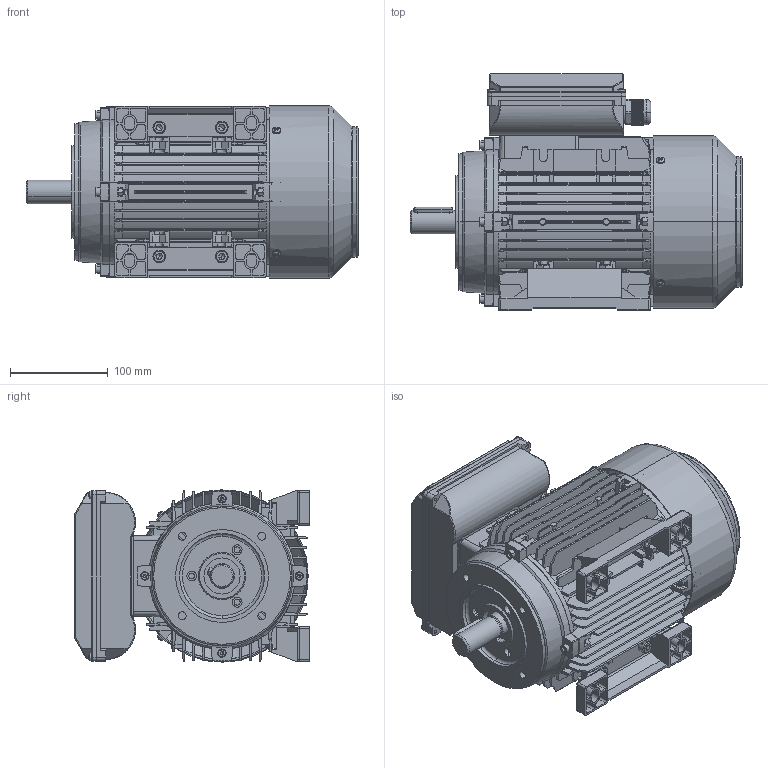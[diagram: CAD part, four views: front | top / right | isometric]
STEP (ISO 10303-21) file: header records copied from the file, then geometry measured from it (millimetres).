
FILE_DESCRIPTION (( 'STEP AP203' ), '1' );
FILE_NAME ('ML2 90L B34(臏諉盄碟).STEP', '2024-01-22T08:34:21', ( '' ), ( '' ), 'SwSTEP 2.0', 'SolidWorks 2016', '' );
FILE_SCHEMA (( 'CONFIG_CONTROL_DESIGN' ));
Length unit declared in the file: millimetre
Products named in the file (19): cross recessed thread forming screws gb_GB_CROSS_SCREWS_TYPE138 M4X8X6.6-N; ML2 90L B34(臏諉盄碟); T90L菁褐; TA90瑞欶; 80-100堤盄蹟杶; ML80-90铝接线盒组合II（加长）; 90瑞珔; TA90B14楊擘1; hexagon nuts grade c gb_GB_FASTENER_NUT_SNC1 M8-N; cross recessed thread forming screws gb_GB_CROSS_SCREWS_TYPE138 M4X12-N; T90L儂褲; ML80-ML90諉盄碟釱(樓酗)(臏II); hexagon nuts grade c gb_GB_FASTENER_NUT_SNC1 M5-N; plain parallel keys_GB_CONNECTING_PIECE_KEYS_CSK 8X40; TA90綴裔1; T90L蛌粣; ML80-ML90諉盄碟裔(樓酗)(臏II); hexagon socket head cap screws gb_GB_FASTENER_SCREWS_HSHCS M8X25-N; hexagon socket head cap screws gb_GB_FASTENER_SCREWS_HSHCS M5X25-N
Assembly tree (45 placements, depth 3):
  ML2 90L B34(臏諉盄碟)
    T90L儂褲
    T90L菁褐  x2
    TA90瑞欶
    TA90綴裔1
    90瑞珔
    T90L蛌粣
    plain parallel keys_GB_CONNECTING_PIECE_KEYS_CSK 8X40
    hexagon nuts grade c gb_GB_FASTENER_NUT_SNC1 M5-N  x8
    hexagon socket head cap screws gb_GB_FASTENER_SCREWS_HSHCS M5X25-N  x8
    hexagon socket head cap screws gb_GB_FASTENER_SCREWS_HSHCS M8X25-N  x4
    hexagon nuts grade c gb_GB_FASTENER_NUT_SNC1 M8-N  x4
    cross recessed thread forming screws gb_GB_CROSS_SCREWS_TYPE138 M4X12-N  x4
    TA90B14楊擘1
    ML80-90铝接线盒组合II（加长）
      ML80-ML90諉盄碟釱(樓酗)(臏II)
      ML80-ML90諉盄碟裔(樓酗)(臏II)
      cross recessed thread forming screws gb_GB_CROSS_SCREWS_TYPE138 M4X8X6.6-N  x4
      80-100堤盄蹟杶
Bounding box: 340 x 241.5 x 176.5 mm (x, y, z)
Volume: 1488000.7 mm3; surface area: 975215.4 mm2
Topology: 44 solids, 44 shells, 4258 faces, 11404 edges, 7294 vertices
Faces by surface type: plane 2631, cylinder 1100, cone 269, torus 164, sphere 80, bspline 14
Entity records: 120524 total; most frequent: CARTESIAN_POINT 28716, ORIENTED_EDGE 19406, DIRECTION 17568, EDGE_CURVE 9703, VECTOR 6246, LINE 6246, VERTEX_POINT 6244, AXIS2_PLACEMENT_3D 5661
